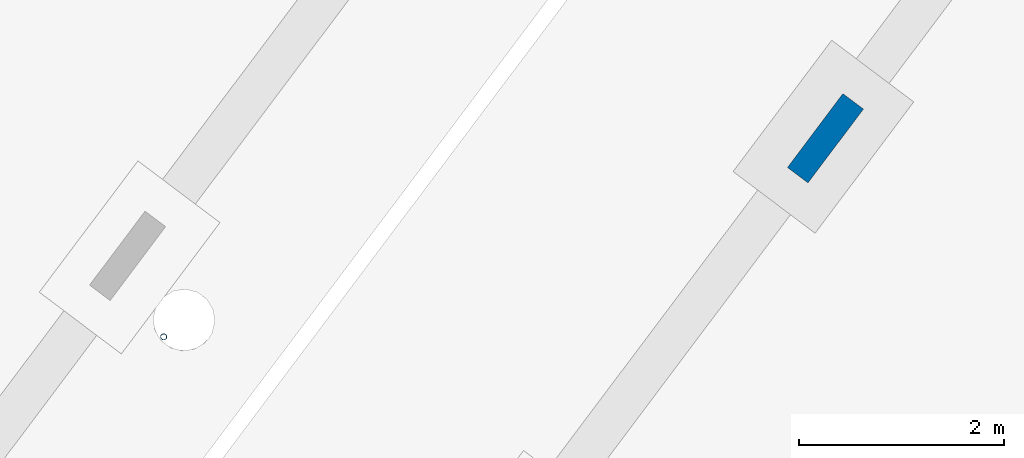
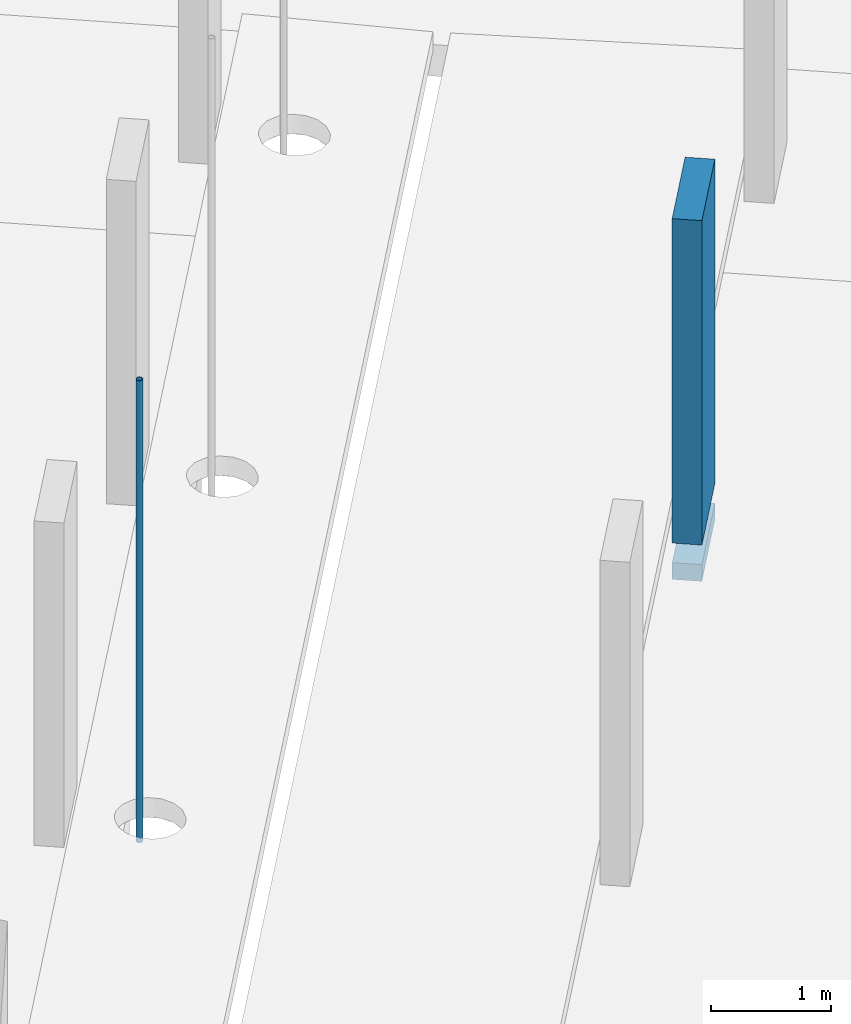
# One storey, part 6 of 24: 2 columns.
"""IFC2X3 building model written with IfcOpenShell, lengths in metres."""

from ifc_helpers import new_model, entity, si_unit, converted_unit, derived_unit, direction, frame, frame_2d, origin, place, context, subcontext, project, spatial, rectangle, hollow_circle, extrude, source, transform, mapped, material, type_object, type_shapes, element, save


model = new_model("IFC2X3")

# Units and contexts
model_context = context("Model", 3, precision=1e-05, world=origin(), true_north=direction((6.123031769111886e-17, 1.0)))
body_context = subcontext(model_context, "Body", "Model", "MODEL_VIEW")
ifc_project = project(units=[si_unit("LENGTHUNIT", "METRE"), si_unit("AREAUNIT", "SQUARE_METRE"), si_unit("VOLUMEUNIT", "CUBIC_METRE"), converted_unit("PLANEANGLEUNIT", "DEGREE", entity("IfcRatioMeasure", 0.017453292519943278), si_unit("PLANEANGLEUNIT", "RADIAN"), dimensions=[0, 0, 0, 0, 0, 0, 0]), si_unit("MASSUNIT", "GRAM", prefix="KILO"), derived_unit("MASSDENSITYUNIT", [(si_unit("MASSUNIT", "GRAM", prefix="KILO"), 1), (si_unit("LENGTHUNIT", "METRE"), -3)]), derived_unit("IONCONCENTRATIONUNIT", [(si_unit("MASSUNIT", "GRAM", prefix="KILO"), 1), (si_unit("LENGTHUNIT", "METRE"), -3)]), derived_unit("MOMENTOFINERTIAUNIT", [(si_unit("LENGTHUNIT", "METRE"), 4)]), si_unit("TIMEUNIT", "SECOND"), si_unit("FREQUENCYUNIT", "HERTZ"), si_unit("THERMODYNAMICTEMPERATUREUNIT", "DEGREE_CELSIUS"), derived_unit("THERMALTRANSMITTANCEUNIT", [(si_unit("MASSUNIT", "GRAM", prefix="KILO"), 1), (si_unit("THERMODYNAMICTEMPERATUREUNIT", "KELVIN"), -1), (si_unit("TIMEUNIT", "SECOND"), -3)]), derived_unit("THERMALCONDUCTANCEUNIT", [(si_unit("MASSUNIT", "GRAM", prefix="KILO"), 1), (si_unit("THERMODYNAMICTEMPERATUREUNIT", "KELVIN"), -1), (si_unit("TIMEUNIT", "SECOND"), -3), (si_unit("LENGTHUNIT", "METRE"), 1)]), derived_unit("VOLUMETRICFLOWRATEUNIT", [(si_unit("LENGTHUNIT", "METRE"), 3), (si_unit("TIMEUNIT", "SECOND"), -1)]), derived_unit("MASSFLOWRATEUNIT", [(si_unit("MASSUNIT", "GRAM", prefix="KILO"), 1), (si_unit("TIMEUNIT", "SECOND"), -1)]), derived_unit("ROTATIONALFREQUENCYUNIT", [(si_unit("TIMEUNIT", "SECOND"), -1)]), si_unit("ELECTRICCURRENTUNIT", "AMPERE"), si_unit("ELECTRICVOLTAGEUNIT", "VOLT"), si_unit("POWERUNIT", "WATT"), si_unit("FORCEUNIT", "NEWTON", prefix="KILO"), si_unit("ILLUMINANCEUNIT", "LUX"), si_unit("LUMINOUSFLUXUNIT", "LUMEN"), si_unit("LUMINOUSINTENSITYUNIT", "CANDELA"), derived_unit("USERDEFINED", [(si_unit("MASSUNIT", "GRAM", prefix="KILO"), -1), (si_unit("LENGTHUNIT", "METRE"), -2), (si_unit("TIMEUNIT", "SECOND"), 3), (si_unit("LUMINOUSFLUXUNIT", "LUMEN"), 1)]), derived_unit("USERDEFINED", [(si_unit("MASSUNIT", "GRAM", prefix="KILO"), 1), (si_unit("TIMEUNIT", "SECOND"), -3), (si_unit("LENGTHUNIT", "METRE"), 3), (si_unit("ELECTRICCURRENTUNIT", "AMPERE"), -2)]), derived_unit("SOUNDPOWERUNIT", [(si_unit("MASSUNIT", "GRAM", prefix="KILO"), 1), (si_unit("TIMEUNIT", "SECOND"), -3), (si_unit("LENGTHUNIT", "METRE"), 2)]), derived_unit("SOUNDPRESSUREUNIT", [(si_unit("MASSUNIT", "GRAM", prefix="KILO"), 1), (si_unit("LENGTHUNIT", "METRE"), -1), (si_unit("TIMEUNIT", "SECOND"), -2)]), derived_unit("LINEARVELOCITYUNIT", [(si_unit("LENGTHUNIT", "METRE"), 1), (si_unit("TIMEUNIT", "SECOND"), -1)]), si_unit("PRESSUREUNIT", "PASCAL"), derived_unit("USERDEFINED", [(si_unit("MASSUNIT", "GRAM", prefix="KILO"), 1), (si_unit("LENGTHUNIT", "METRE"), -2), (si_unit("TIMEUNIT", "SECOND"), -2)]), derived_unit("LINEARFORCEUNIT", [(si_unit("MASSUNIT", "GRAM", prefix="KILO"), 1), (si_unit("TIMEUNIT", "SECOND"), -2)]), derived_unit("PLANARFORCEUNIT", [(si_unit("MASSUNIT", "GRAM", prefix="KILO"), 1), (si_unit("LENGTHUNIT", "METRE"), -1), (si_unit("TIMEUNIT", "SECOND"), -2)]), derived_unit("SPECIFICHEATCAPACITYUNIT", [(si_unit("THERMODYNAMICTEMPERATUREUNIT", "KELVIN"), -1), (si_unit("LENGTHUNIT", "METRE"), 2), (si_unit("TIMEUNIT", "SECOND"), -2)]), derived_unit("HEATINGVALUEUNIT", [(si_unit("LENGTHUNIT", "METRE"), 2), (si_unit("TIMEUNIT", "SECOND"), -2)]), derived_unit("VAPORPERMEABILITYUNIT", [(si_unit("LENGTHUNIT", "METRE"), -1), (si_unit("TIMEUNIT", "SECOND"), 1)]), derived_unit("DYNAMICVISCOSITYUNIT", [(si_unit("MASSUNIT", "GRAM", prefix="KILO"), 1), (si_unit("TIMEUNIT", "SECOND"), -1), (si_unit("LENGTHUNIT", "METRE"), -1)]), derived_unit("THERMALEXPANSIONCOEFFICIENTUNIT", [(si_unit("THERMODYNAMICTEMPERATUREUNIT", "KELVIN"), -1)]), derived_unit("MODULUSOFELASTICITYUNIT", [(si_unit("MASSUNIT", "GRAM", prefix="KILO"), 1), (si_unit("LENGTHUNIT", "METRE"), -1), (si_unit("TIMEUNIT", "SECOND"), -2)]), derived_unit("ISOTHERMALMOISTURECAPACITYUNIT", [(si_unit("LENGTHUNIT", "METRE"), 3), (si_unit("MASSUNIT", "GRAM", prefix="KILO"), -1)]), derived_unit("MOISTUREDIFFUSIVITYUNIT", [(si_unit("TIMEUNIT", "SECOND"), -1), (si_unit("LENGTHUNIT", "METRE"), 2)])], contexts=[model_context])

# Site, building, storey
site_placement = place(None, origin())
site = spatial("IfcSite", under=ifc_project, at=site_placement, Name="Default", CompositionType="ELEMENT")
building_placement = place(site_placement, frame((0.0, 0.0, 235.0), z_axis=(0.0, 0.0, 1.0), x_axis=(-0.7996477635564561, 0.6004693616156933, 0.0)))
building = spatial("IfcBuilding", under=site, at=building_placement, CompositionType="ELEMENT")
storey_placement = place(building_placement, origin())
storey = spatial("IfcBuildingStorey", under=building, at=storey_placement, Name="P0- Escola", CompositionType="ELEMENT", Elevation=0.0)

# Columns
ifc_material_1 = material(Name="_Formigó- T1- STR")
column_type_1 = type_object("IfcColumnType", Name="STR- P- Formigó- Rectangular- T1:25x90cm", PredefinedType="COLUMN", material=ifc_material_1)
shared_shape_1 = source(origin(), body_context, "Body", "SweptSolid", [
    extrude(rectangle(XDim=0.899999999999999, YDim=0.25000000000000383, at=frame_2d((0.0, -8.666678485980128e-15), x_axis=(1.0, 0.0))), frame((61.87014768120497, -29.915191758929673, -0.57), z_axis=(0.0, 0.0, 1.0), x_axis=(0.0, -1.0, 0.0)), (0.0, 0.0, 1.0), 0.16999999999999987),
    extrude(rectangle(XDim=0.899999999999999, YDim=0.25000000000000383, at=frame_2d((0.0, -8.666678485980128e-15), x_axis=(1.0, 0.0))), frame((61.87014768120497, -29.915191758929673, -0.2), z_axis=(0.0, 0.0, 1.0), x_axis=(0.0, -1.0, 0.0)), (0.0, 0.0, 1.0), 3.3000000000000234),
])
type_shapes(column_type_1, [shared_shape_1])
column_1_placement = place(storey_placement, origin())
element("IfcColumn", 1, at=column_1_placement, inside=storey, type_object=column_type_1, material=ifc_material_1, Name="STR- P- Formigó- Rectangular- T1:25x90cm", ObjectType="STR- P- Formigó- Rectangular- T1:25x90cm", context=body_context, shape_type="MappedRepresentation", body=[
    mapped(shared_shape_1, transform((0.0, 0.0, 0.0), scale=1.0)),
])
ifc_material_2 = material(Name="Metal - Acero - 345 MPa")
column_type_2 = type_object("IfcColumnType", Name="STR- P- Acer- CHS- Circular- T1:60.3 x 3CHS", PredefinedType="COLUMN", material=ifc_material_2)
shared_shape_2 = source(origin(), body_context, "Body", "SweptSolid", [
    extrude(hollow_circle(Radius=0.03014999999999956, WallThickness=0.0029999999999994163, at=frame_2d((-4.81877898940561e-19, 4.854464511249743e-17), x_axis=(1.0, 0.0))), frame((0.0, 0.0, -0.1)), (0.0, 0.0, 1.0), 4.700000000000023),
])
type_shapes(column_type_2, [shared_shape_2])
column_2_placement = place(storey_placement, frame((65.86514768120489, -24.495191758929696, 0.0)))
element("IfcColumn", 2, at=column_2_placement, inside=storey, type_object=column_type_2, material=ifc_material_2, Name="STR- P- Acer- CHS- Circular- T1:60.3 x 3CHS", ObjectType="STR- P- Acer- CHS- Circular- T1:60.3 x 3CHS", context=body_context, shape_type="MappedRepresentation", body=[
    mapped(shared_shape_2, transform((0.0, 0.0, 0.0), scale=1.0)),
])

save(model, "model.ifc")
